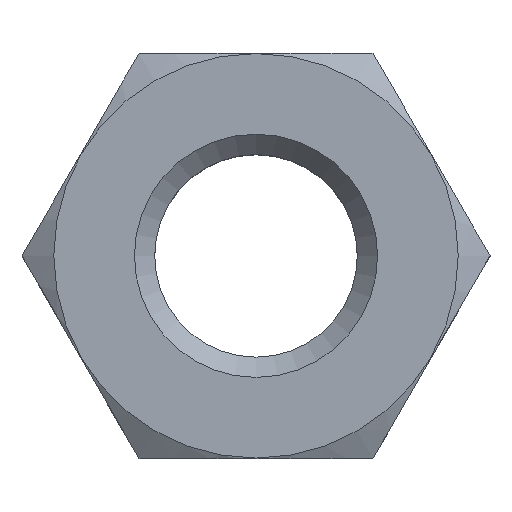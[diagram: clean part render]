
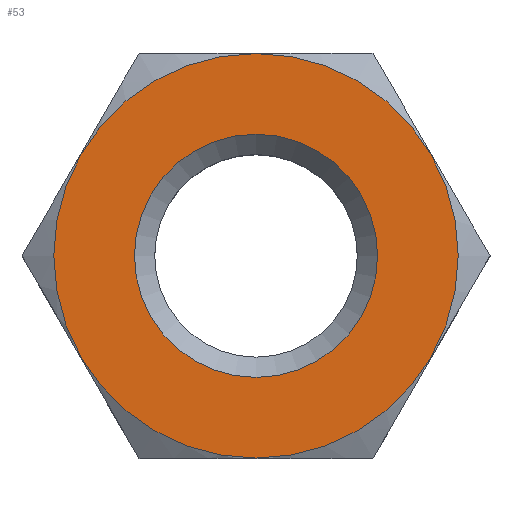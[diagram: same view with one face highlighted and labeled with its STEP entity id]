
A CAD part, top view. The second image highlights one B-rep face of the part: STEP entity #53.
In plain terms, the highlighted planar face has unit normal (0, 0, 1).
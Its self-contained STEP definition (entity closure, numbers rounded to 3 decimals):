
#53 = ADVANCED_FACE( '', ( #108, #109 ), #110, .T. );
#108 = FACE_BOUND( '', #161, .T. );
#109 = FACE_OUTER_BOUND( '', #162, .T. );
#110 = PLANE( '', #163 );
#161 = EDGE_LOOP( '', ( #241 ) );
#162 = EDGE_LOOP( '', ( #242 ) );
#163 = AXIS2_PLACEMENT_3D( '', #243, #244, #245 );
#241 = ORIENTED_EDGE( '', *, *, #286, .T. );
#242 = ORIENTED_EDGE( '', *, *, #309, .F. );
#243 = CARTESIAN_POINT( '', ( -2.887, -5., 5.2 ) );
#244 = DIRECTION( '', ( 0., 0., 1. ) );
#245 = DIRECTION( '', ( 1., 0., 0. ) );
#286 = EDGE_CURVE( '', #328, #328, #329, .F. );
#309 = EDGE_CURVE( '', #363, #363, #364, .T. );
#328 = VERTEX_POINT( '', #403 );
#329 = CIRCLE( '', #404, 3. );
#363 = VERTEX_POINT( '', #514 );
#364 = CIRCLE( '', #515, 4.99 );
#403 = CARTESIAN_POINT( '', ( 3., 0., 5.2 ) );
#404 = AXIS2_PLACEMENT_3D( '', #545, #546, #547 );
#514 = CARTESIAN_POINT( '', ( -4.99, 0., 5.2 ) );
#515 = AXIS2_PLACEMENT_3D( '', #561, #562, #563 );
#545 = CARTESIAN_POINT( '', ( 0., 0., 5.2 ) );
#546 = DIRECTION( '', ( 0., 0., 1. ) );
#547 = DIRECTION( '', ( 1., 0., 0. ) );
#561 = CARTESIAN_POINT( '', ( 0., 0., 5.2 ) );
#562 = DIRECTION( '', ( 0., 0., -1. ) );
#563 = DIRECTION( '', ( -1., 0., 0. ) );
